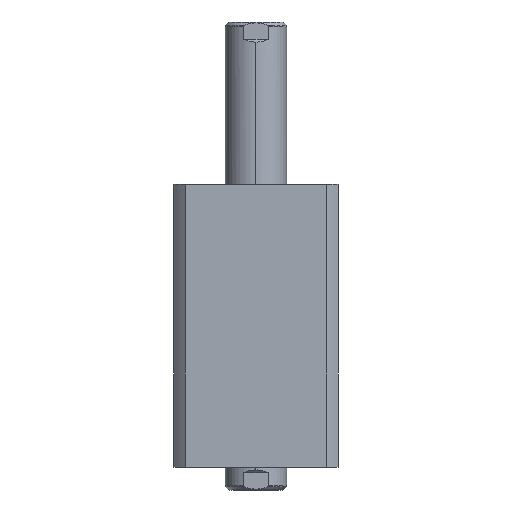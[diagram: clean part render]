
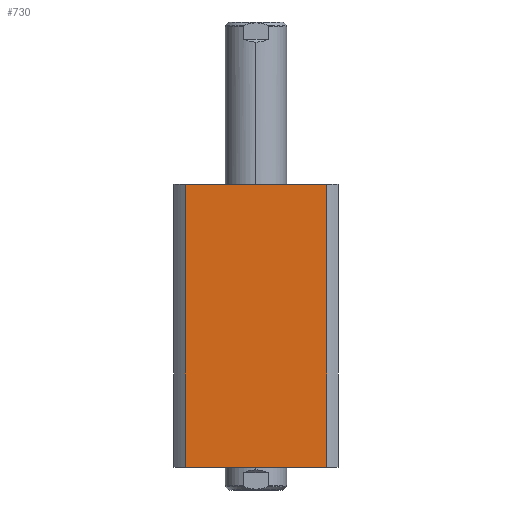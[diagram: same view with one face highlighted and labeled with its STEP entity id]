
A CAD part, left-side view. The second image highlights one B-rep face of the part: STEP entity #730.
In plain terms, the highlighted planar face has unit normal (-1, 0, 0).
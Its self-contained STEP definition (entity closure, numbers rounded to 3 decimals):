
#634 = CARTESIAN_POINT ( 'NONE',  ( -47., 47., 162. ) ) ;
#701 = EDGE_CURVE ( 'NONE', #3658, #4636, #7072, .T. ) ;
#730 = ADVANCED_FACE ( 'NONE', ( #13268 ), #10655, .F. ) ;
#967 = ORIENTED_EDGE ( 'NONE', *, *, #17696, .F. ) ;
#1688 = CARTESIAN_POINT ( 'NONE',  ( -47., 40.435, 300. ) ) ;
#2817 = DIRECTION ( 'NONE',  ( 0., 0., -1. ) ) ;
#2897 = CARTESIAN_POINT ( 'NONE',  ( -47., -40.435, 162. ) ) ;
#3544 = VECTOR ( 'NONE', #8787, 1000. ) ;
#3658 = VERTEX_POINT ( 'NONE', #15380 ) ;
#4248 = LINE ( 'NONE', #11820, #11333 ) ;
#4636 = VERTEX_POINT ( 'NONE', #2897 ) ;
#4697 = CARTESIAN_POINT ( 'NONE',  ( -47., -40.435, 0. ) ) ;
#5551 = VECTOR ( 'NONE', #2817, 1000. ) ;
#6160 = ORIENTED_EDGE ( 'NONE', *, *, #701, .F. ) ;
#7072 = LINE ( 'NONE', #11181, #17074 ) ;
#7558 = DIRECTION ( 'NONE',  ( 0., 1., 0. ) ) ;
#8511 = DIRECTION ( 'NONE',  ( 1., 0., 0. ) ) ;
#8787 = DIRECTION ( 'NONE',  ( 0., 0., 1. ) ) ;
#8976 = DIRECTION ( 'NONE',  ( 0., -1., 0. ) ) ;
#9256 = VERTEX_POINT ( 'NONE', #4697 ) ;
#9346 = EDGE_CURVE ( 'NONE', #17863, #9256, #4248, .T. ) ;
#10265 = ORIENTED_EDGE ( 'NONE', *, *, #9346, .T. ) ;
#10655 = PLANE ( 'NONE',  #16135 ) ;
#10973 = EDGE_CURVE ( 'NONE', #4636, #9256, #17318, .T. ) ;
#11181 = CARTESIAN_POINT ( 'NONE',  ( -47., 47., 162. ) ) ;
#11333 = VECTOR ( 'NONE', #14699, 1000. ) ;
#11820 = CARTESIAN_POINT ( 'NONE',  ( -47., 47., 0. ) ) ;
#12059 = ORIENTED_EDGE ( 'NONE', *, *, #10973, .F. ) ;
#13268 = FACE_OUTER_BOUND ( 'NONE', #17490, .T. ) ;
#14699 = DIRECTION ( 'NONE',  ( 0., -1., 0. ) ) ;
#14887 = LINE ( 'NONE', #1688, #3544 ) ;
#14903 = CARTESIAN_POINT ( 'NONE',  ( -47., 40.435, 0. ) ) ;
#15380 = CARTESIAN_POINT ( 'NONE',  ( -47., 40.435, 162. ) ) ;
#16135 = AXIS2_PLACEMENT_3D ( 'NONE', #634, #8511, #7558 ) ;
#17052 = CARTESIAN_POINT ( 'NONE',  ( -47., -40.435, 300. ) ) ;
#17074 = VECTOR ( 'NONE', #8976, 1000. ) ;
#17318 = LINE ( 'NONE', #17052, #5551 ) ;
#17490 = EDGE_LOOP ( 'NONE', ( #12059, #6160, #967, #10265 ) ) ;
#17696 = EDGE_CURVE ( 'NONE', #17863, #3658, #14887, .T. ) ;
#17863 = VERTEX_POINT ( 'NONE', #14903 ) ;
